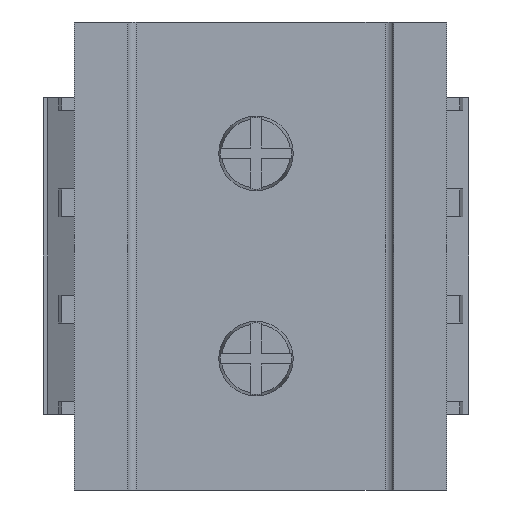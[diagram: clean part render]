
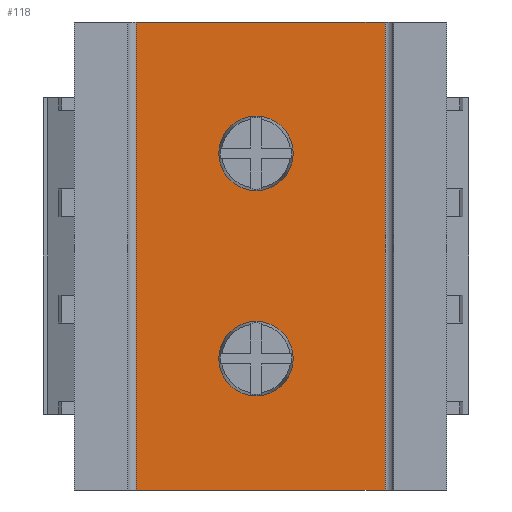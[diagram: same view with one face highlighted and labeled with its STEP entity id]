
A CAD part, left-side view. The second image highlights one B-rep face of the part: STEP entity #118.
In plain terms, the highlighted planar face has unit normal (-1, 0, 0).
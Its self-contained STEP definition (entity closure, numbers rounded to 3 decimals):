
#118 = ADVANCED_FACE( '', ( #413, #414, #415 ), #416, .T. );
#413 = FACE_BOUND( '', #929, .T. );
#414 = FACE_OUTER_BOUND( '', #930, .T. );
#415 = FACE_BOUND( '', #931, .T. );
#416 = PLANE( '', #932 );
#929 = EDGE_LOOP( '', ( #1697, #1698 ) );
#930 = EDGE_LOOP( '', ( #1699, #1700, #1701, #1702 ) );
#931 = EDGE_LOOP( '', ( #1703, #1704 ) );
#932 = AXIS2_PLACEMENT_3D( '', #1705, #1706, #1707 );
#1697 = ORIENTED_EDGE( '', *, *, #3698, .T. );
#1698 = ORIENTED_EDGE( '', *, *, #3599, .T. );
#1699 = ORIENTED_EDGE( '', *, *, #3699, .T. );
#1700 = ORIENTED_EDGE( '', *, *, #3700, .F. );
#1701 = ORIENTED_EDGE( '', *, *, #3701, .F. );
#1702 = ORIENTED_EDGE( '', *, *, #3702, .T. );
#1703 = ORIENTED_EDGE( '', *, *, #3697, .T. );
#1704 = ORIENTED_EDGE( '', *, *, #3618, .T. );
#1705 = CARTESIAN_POINT( '', ( -59.3, 0.765, 22. ) );
#1706 = DIRECTION( '', ( -1., 0., 0. ) );
#1707 = DIRECTION( '', ( 0., 1., 0. ) );
#3599 = EDGE_CURVE( '', #4356, #4353, #4357, .T. );
#3618 = EDGE_CURVE( '', #4393, #4390, #4394, .T. );
#3697 = EDGE_CURVE( '', #4390, #4393, #4520, .T. );
#3698 = EDGE_CURVE( '', #4353, #4356, #4521, .T. );
#3699 = EDGE_CURVE( '', #4522, #4523, #4524, .T. );
#3700 = EDGE_CURVE( '', #4525, #4523, #4526, .T. );
#3701 = EDGE_CURVE( '', #4527, #4525, #4528, .T. );
#3702 = EDGE_CURVE( '', #4527, #4522, #4529, .T. );
#4353 = VERTEX_POINT( '', #5574 );
#4356 = VERTEX_POINT( '', #5578 );
#4357 = CIRCLE( '', #5579, 3.5 );
#4390 = VERTEX_POINT( '', #5653 );
#4393 = VERTEX_POINT( '', #5657 );
#4394 = CIRCLE( '', #5658, 3.5 );
#4520 = CIRCLE( '', #5937, 3.5 );
#4521 = CIRCLE( '', #5938, 3.5 );
#4522 = VERTEX_POINT( '', #5939 );
#4523 = VERTEX_POINT( '', #5940 );
#4524 = LINE( '', #5941, #5942 );
#4525 = VERTEX_POINT( '', #5943 );
#4526 = LINE( '', #5944, #5945 );
#4527 = VERTEX_POINT( '', #5946 );
#4528 = LINE( '', #5947, #5948 );
#4529 = LINE( '', #5949, #5950 );
#5574 = CARTESIAN_POINT( '', ( -59.3, -10.5, -13.15 ) );
#5578 = CARTESIAN_POINT( '', ( -59.3, -10.5, -6.15 ) );
#5579 = AXIS2_PLACEMENT_3D( '', #7526, #7527, #7528 );
#5653 = CARTESIAN_POINT( '', ( -59.3, -10.5, 6.15 ) );
#5657 = CARTESIAN_POINT( '', ( -59.3, -10.5, 13.15 ) );
#5658 = AXIS2_PLACEMENT_3D( '', #7559, #7560, #7561 );
#5937 = AXIS2_PLACEMENT_3D( '', #7670, #7671, #7672 );
#5938 = AXIS2_PLACEMENT_3D( '', #7673, #7674, #7675 );
#5939 = CARTESIAN_POINT( '', ( -59.3, 0.765, -22. ) );
#5940 = CARTESIAN_POINT( '', ( -59.3, -22.635, -22. ) );
#5941 = CARTESIAN_POINT( '', ( -59.3, 0.765, -22. ) );
#5942 = VECTOR( '', #7676, 1. );
#5943 = CARTESIAN_POINT( '', ( -59.3, -22.635, 22. ) );
#5944 = CARTESIAN_POINT( '', ( -59.3, -22.635, 22. ) );
#5945 = VECTOR( '', #7677, 1. );
#5946 = CARTESIAN_POINT( '', ( -59.3, 0.765, 22. ) );
#5947 = CARTESIAN_POINT( '', ( -59.3, 0.765, 22. ) );
#5948 = VECTOR( '', #7678, 1. );
#5949 = CARTESIAN_POINT( '', ( -59.3, 0.765, 22. ) );
#5950 = VECTOR( '', #7679, 1. );
#7526 = CARTESIAN_POINT( '', ( -59.3, -10.5, -9.65 ) );
#7527 = DIRECTION( '', ( 1., 0., 0. ) );
#7528 = DIRECTION( '', ( 0., 0., -1. ) );
#7559 = CARTESIAN_POINT( '', ( -59.3, -10.5, 9.65 ) );
#7560 = DIRECTION( '', ( 1., 0., 0. ) );
#7561 = DIRECTION( '', ( 0., 0., -1. ) );
#7670 = CARTESIAN_POINT( '', ( -59.3, -10.5, 9.65 ) );
#7671 = DIRECTION( '', ( 1., 0., 0. ) );
#7672 = DIRECTION( '', ( 0., 0., -1. ) );
#7673 = CARTESIAN_POINT( '', ( -59.3, -10.5, -9.65 ) );
#7674 = DIRECTION( '', ( 1., 0., 0. ) );
#7675 = DIRECTION( '', ( 0., 0., -1. ) );
#7676 = DIRECTION( '', ( 0., -1., 0. ) );
#7677 = DIRECTION( '', ( 0., 0., -1. ) );
#7678 = DIRECTION( '', ( 0., -1., 0. ) );
#7679 = DIRECTION( '', ( 0., 0., -1. ) );
